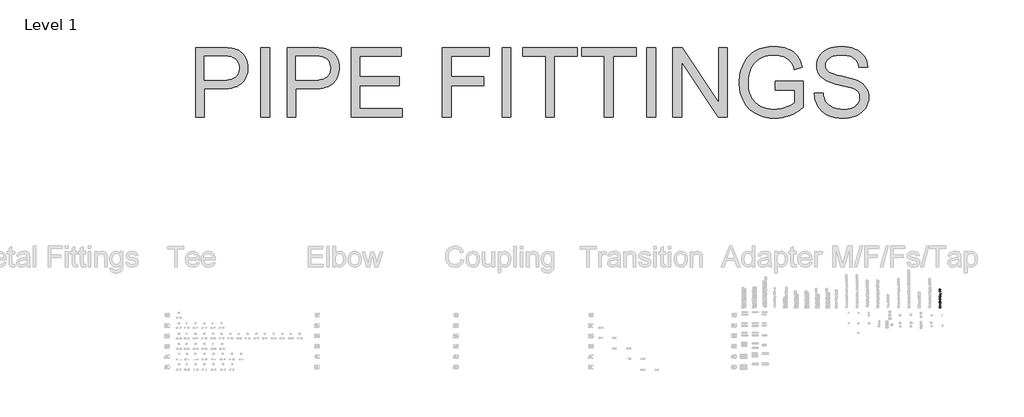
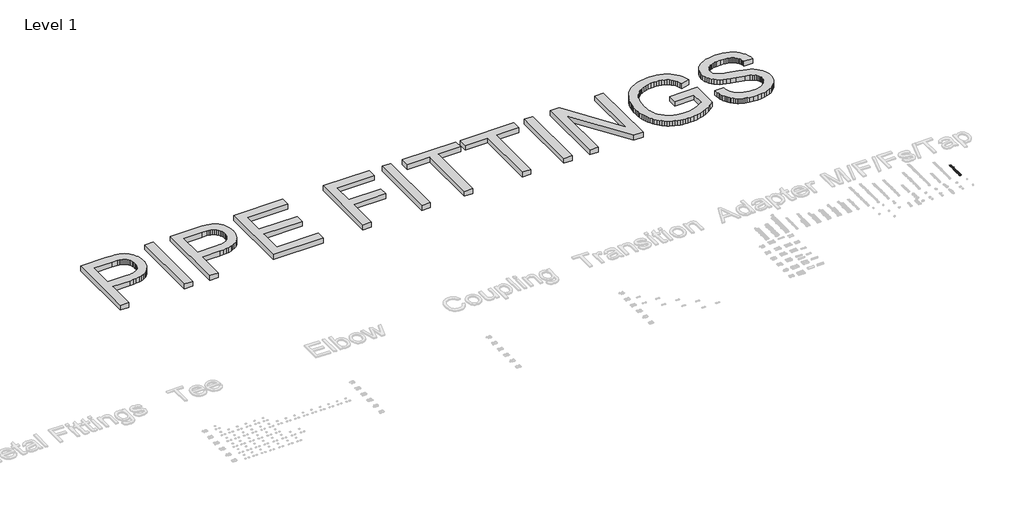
# One storey, part 58 of 58: 2 proxies.
"""IFC4 building model written with IfcOpenShell, lengths in millimetres."""

from ifc_helpers import new_model, si_unit, frame, origin, place, context, project, spatial, polyline, outline, extrude, element, save

model = new_model("IFC4")

# Units and contexts
model_context = context("Model", 3, world=origin())
ifc_project = project(units=[si_unit("LENGTHUNIT", "METRE", prefix="MILLI")], contexts=[model_context])

# Site, building, storey
site = spatial("IfcSite", under=ifc_project)
building = spatial("IfcBuilding", under=site)
storey = spatial("IfcBuildingStorey", under=building, Name="Level 1", Elevation=27.3876384)

# Proxies
placement = place(None, origin())
element("IfcBuildingElementProxy", 1, Name="2000mm Arial", ObjectType="2000mm Arial", at=placement, inside=storey, context=model_context, shape_type="SweptSolid", body=[
    extrude(outline(polyline([(13601.5317073, 35917.4021337), (13601.5317073, 37926.5283367), (14346.1248656, 37926.5283367), (14519.5199126, 37921.7458708), (14588.7430414, 37915.7677884), (14646.3165736, 37907.398473), (14716.1988243, 37892.3306396), (14780.1643062, 37871.6526058), (14838.2130194, 37845.3643716), (14890.3449638, 37813.4659369), (14937.1119624, 37775.2981799), (14979.0658383, 37730.2019786), (15016.2065914, 37678.1773332), (15048.5342217, 37619.2242434), (15074.715157, 37555.2894184), (15093.4158251, 37488.3195668), (15104.636226, 37418.3146888), (15108.3763596, 37345.2747844), (15105.851003, 37282.3746274), (15098.2749331, 37221.9423455), (15085.6481501, 37163.9779386), (15067.9706538, 37108.4814068), (15045.2424443, 37055.45275), (15017.4635215, 37004.8919683), (14984.6338856, 36956.7990617), (14946.7535364, 36911.17403), (14902.2819681, 36869.5573793), (14849.6786749, 36833.4896154), (14788.9436568, 36802.9707382), (14720.0769137, 36778.0007478), (14643.0784457, 36758.5796441), (14557.9482527, 36744.7074272), (14464.6863348, 36736.3840971), (14363.292692, 36733.6096537), (13852.6724827, 36733.6096537), (13852.6724827, 35917.4021337), (13601.5317073, 35917.4021337)]), holes=[polyline([(13852.6724827, 36984.7504291), (14378.0079718, 36984.7504291), (14498.7958936, 36990.5139137), (14552.108126, 36997.7182694), (14600.6992062, 37007.8043674), (14644.5691342, 37020.7722078), (14683.7179098, 37036.6217904), (14718.1455332, 37055.3531153), (14747.8520043, 37076.9661825), (14773.4887809, 37101.1927448), (14795.7073205, 37127.7645547), (14814.5076233, 37156.6816124), (14829.8896892, 37187.9439178), (14841.8535183, 37221.5514709), (14850.3991105, 37257.5042717), (14855.5264658, 37295.8023202), (14857.2355842, 37336.4456165), (14853.2042107, 37395.061481), (14841.1100901, 37449.2627617), (14820.9532224, 37499.0494583), (14792.7336077, 37544.4215711), (14757.9534308, 37583.9075719), (14718.1148764, 37616.0359328), (14673.2179445, 37640.8066538), (14623.2626353, 37658.2197349), (14581.9985382, 37665.730659), (14526.3870432, 37671.0956048), (14372.1218599, 37675.3875614), (13852.6724827, 37675.3875614), (13852.6724827, 36984.7504291)])]), frame((0.0, 0.0, 27.3876384), z_axis=(0.0, 0.0, 1.0), x_axis=(1.0, 0.0, 0.0)), (0.0, 0.0, 1.0), 150.0),
    extrude(outline(polyline([(15485.0875227, 35917.4021337), (15485.0875227, 37926.5283367), (15736.228298, 37926.5283367), (15736.228298, 35917.4021337), (15485.0875227, 35917.4021337)])), frame((0.0, 0.0, 27.3876384), z_axis=(0.0, 0.0, 1.0), x_axis=(1.0, 0.0, 0.0)), (0.0, 0.0, 1.0), 150.0),
    extrude(outline(polyline([(16238.5098488, 35917.4021337), (16238.5098488, 37926.5283367), (16983.103007, 37926.5283367), (17156.4980541, 37921.7458708), (17225.7211828, 37915.7677884), (17283.2947151, 37907.398473), (17353.1769657, 37892.3306396), (17417.1424477, 37871.6526058), (17475.1911608, 37845.3643716), (17527.3231052, 37813.4659369), (17574.0901038, 37775.2981799), (17616.0439797, 37730.2019786), (17653.1847328, 37678.1773332), (17685.5123631, 37619.2242434), (17711.6932985, 37555.2894184), (17730.3939665, 37488.3195668), (17741.6143674, 37418.3146888), (17745.354501, 37345.2747844), (17742.8291444, 37282.3746274), (17735.2530746, 37221.9423455), (17722.6262915, 37163.9779386), (17704.9487952, 37108.4814068), (17682.2205857, 37055.45275), (17654.441663, 37004.8919683), (17621.612027, 36956.7990617), (17583.7316778, 36911.17403), (17539.2601095, 36869.5573793), (17486.6568163, 36833.4896154), (17425.9217982, 36802.9707382), (17357.0550551, 36778.0007478), (17280.0565871, 36758.5796441), (17194.9263942, 36744.7074272), (17101.6644763, 36736.3840971), (17000.2708335, 36733.6096537), (16489.6506241, 36733.6096537), (16489.6506241, 35917.4021337), (16238.5098488, 35917.4021337)]), holes=[polyline([(16489.6506241, 36984.7504291), (17014.9861133, 36984.7504291), (17135.774035, 36990.5139137), (17189.0862675, 36997.7182694), (17237.6773477, 37007.8043674), (17281.5472756, 37020.7722078), (17320.6960513, 37036.6217904), (17355.1236746, 37055.3531153), (17384.8301457, 37076.9661825), (17410.4669223, 37101.1927448), (17432.685462, 37127.7645547), (17451.4857647, 37156.6816124), (17466.8678307, 37187.9439178), (17478.8316597, 37221.5514709), (17487.3772519, 37257.5042717), (17492.5046072, 37295.8023202), (17494.2137256, 37336.4456165), (17490.1823521, 37395.061481), (17478.0882315, 37449.2627617), (17457.9313639, 37499.0494583), (17429.7117492, 37544.4215711), (17394.9315722, 37583.9075719), (17355.0930178, 37616.0359328), (17310.196086, 37640.8066538), (17260.2407767, 37658.2197349), (17218.9766796, 37665.730659), (17163.3651846, 37671.0956048), (17009.1000013, 37675.3875614), (16489.6506241, 37675.3875614), (16489.6506241, 36984.7504291)])]), frame((0.0, 0.0, 27.3876384), z_axis=(0.0, 0.0, 1.0), x_axis=(1.0, 0.0, 0.0)), (0.0, 0.0, 1.0), 150.0),
    extrude(outline(polyline([(18090.6730672, 35917.4021337), (18090.6730672, 37926.5283367), (19534.7325256, 37926.5283367), (19534.7325256, 37675.3875614), (18341.8138425, 37675.3875614), (18341.8138425, 37078.9282199), (19471.9473317, 37078.9282199), (19471.9473317, 36827.7874445), (18341.8138425, 36827.7874445), (18341.8138425, 36168.5429091), (19566.1251225, 36168.5429091), (19566.1251225, 35917.4021337), (18090.6730672, 35917.4021337)])), frame((0.0, 0.0, 27.3876384), z_axis=(0.0, 0.0, 1.0), x_axis=(1.0, 0.0, 0.0)), (0.0, 0.0, 1.0), 150.0),
    extrude(outline(polyline([(20727.6512086, 35917.4021337), (20727.6512086, 37926.5283367), (22077.5328762, 37926.5283367), (22077.5328762, 37675.3875614), (20978.791984, 37675.3875614), (20978.791984, 37078.9282199), (21920.5698916, 37078.9282199), (21920.5698916, 36827.7874445), (20978.791984, 36827.7874445), (20978.791984, 35917.4021337), (20727.6512086, 35917.4021337)])), frame((0.0, 0.0, 27.3876384), z_axis=(0.0, 0.0, 1.0), x_axis=(1.0, 0.0, 0.0)), (0.0, 0.0, 1.0), 150.0),
    extrude(outline(polyline([(22454.2440393, 35917.4021337), (22454.2440393, 37926.5283367), (22705.3848147, 37926.5283367), (22705.3848147, 35917.4021337), (22454.2440393, 35917.4021337)])), frame((0.0, 0.0, 27.3876384), z_axis=(0.0, 0.0, 1.0), x_axis=(1.0, 0.0, 0.0)), (0.0, 0.0, 1.0), 150.0),
    extrude(outline(polyline([(23709.9479162, 35917.4021337), (23709.9479162, 37675.3875614), (23050.7033808, 37675.3875614), (23050.7033808, 37926.5283367), (24620.3332269, 37926.5283367), (24620.3332269, 37675.3875614), (23961.0886915, 37675.3875614), (23961.0886915, 35917.4021337), (23709.9479162, 35917.4021337)])), frame((0.0, 0.0, 27.3876384), z_axis=(0.0, 0.0, 1.0), x_axis=(1.0, 0.0, 0.0)), (0.0, 0.0, 1.0), 150.0),
    extrude(outline(polyline([(25405.1481499, 35917.4021337), (25405.1481499, 37675.3875614), (24745.9036146, 37675.3875614), (24745.9036146, 37926.5283367), (26315.5334607, 37926.5283367), (26315.5334607, 37675.3875614), (25656.2889253, 37675.3875614), (25656.2889253, 35917.4021337), (25405.1481499, 35917.4021337)])), frame((0.0, 0.0, 27.3876384), z_axis=(0.0, 0.0, 1.0), x_axis=(1.0, 0.0, 0.0)), (0.0, 0.0, 1.0), 150.0),
    extrude(outline(polyline([(26629.4594299, 35917.4021337), (26629.4594299, 37926.5283367), (26880.6002052, 37926.5283367), (26880.6002052, 35917.4021337), (26629.4594299, 35917.4021337)])), frame((0.0, 0.0, 27.3876384), z_axis=(0.0, 0.0, 1.0), x_axis=(1.0, 0.0, 0.0)), (0.0, 0.0, 1.0), 150.0),
    extrude(outline(polyline([(27382.881756, 35917.4021337), (27382.881756, 37926.5283367), (27651.6808671, 37926.5283367), (28701.3708267, 36334.8255709), (28701.3708267, 37926.5283367), (28952.5116021, 37926.5283367), (28952.5116021, 35917.4021337), (28683.7124909, 35917.4021337), (27634.0225314, 37509.5954089), (27634.0225314, 35917.4021337), (27382.881756, 35917.4021337)])), frame((0.0, 0.0, 27.3876384), z_axis=(0.0, 0.0, 1.0), x_axis=(1.0, 0.0, 0.0)), (0.0, 0.0, 1.0), 150.0),
    extrude(outline(polyline([(30333.7858666, 36702.2170568), (30333.7858666, 36953.3578322), (31149.9933866, 36953.3578322), (31149.9933866, 36202.3880527), (31051.6002813, 36128.5357421), (30951.6436775, 36064.4323045), (30850.1235753, 36010.0777397), (30747.0399746, 35965.4720478), (30642.5155027, 35930.7071992), (30536.672787, 35905.8751646), (30429.5118275, 35890.9759438), (30321.0326241, 35886.0095368), (30248.0578655, 35887.9830704), (30176.7768968, 35893.9036713), (30107.1897181, 35903.7713394), (30039.2963295, 35917.5860747), (29973.0967309, 35935.3478773), (29908.5909223, 35957.0567471), (29845.7789037, 35982.7126842), (29784.6606752, 36012.3156885), (29726.2364158, 36045.6588264), (29671.5063048, 36082.5351643), (29620.4703422, 36122.9447022), (29573.1285279, 36166.8874401), (29529.4808621, 36214.363378), (29489.5273445, 36265.3725159), (29453.2679754, 36319.9148538), (29420.7027546, 36377.9903917), (29391.9044922, 36438.6985851), (29366.9459981, 36501.1388896), (29345.8272723, 36565.3113051), (29328.5483148, 36631.2158317), (29315.1091257, 36698.8524694), (29305.5097049, 36768.2212181), (29299.7500524, 36839.3220779), (29297.8301682, 36912.1550487), (29299.7423882, 36984.746597), (29305.479048, 37056.1042077), (29315.0401478, 37126.227881), (29328.4256875, 37195.1176167), (29345.6356671, 37262.7734148), (29366.6700866, 37329.1952755), (29391.528946, 37394.3831986), (29420.2122453, 37458.3371842), (29452.482394, 37519.6393538), (29488.1018018, 37576.8718287), (29527.0704686, 37630.0346091), (29569.3883943, 37679.127695), (29615.0555791, 37724.1510862), (29664.0720228, 37765.1047829), (29716.4377256, 37801.9887851), (29772.1526873, 37834.8030926), (29830.6305962, 37863.6588366), (29891.2851401, 37888.6671481), (29954.1163192, 37909.828027), (30019.1241334, 37927.1414734), (30086.3085828, 37940.6074873), (30155.6696673, 37950.2260686), (30227.207387, 37955.9972174), (30300.9217417, 37957.9209337), (30406.9637268, 37953.4603645), (30507.7940504, 37940.0786569), (30603.4127123, 37917.7758109), (30693.8197126, 37886.5518266), (30776.8844014, 37847.3723941), (30850.4761289, 37801.2032037), (30914.5948949, 37748.0442554), (30969.2406996, 37687.8955492), (31016.1609824, 37619.392856), (31057.1031828, 37541.1719468), (31092.0673008, 37453.2328215), (31121.0533363, 37355.5754802), (30889.532934, 37290.3377397), (30865.0841098, 37360.5878724), (30837.8455137, 37422.7139443), (30807.8171458, 37476.7159556), (30774.9990062, 37522.593906), (30737.1071607, 37562.3251615), (30691.8576753, 37597.8870877), (30639.25055, 37629.2796846), (30579.2857848, 37656.5029523), (30513.9100885, 37678.4992299), (30445.0701702, 37694.2108568), (30372.7660297, 37703.6378329), (30296.9976671, 37706.7801583), (30207.1884751, 37703.3925782), (30123.6639337, 37693.2298381), (30046.4240432, 37676.2919379), (29975.4688033, 37652.5788777), (29910.93617, 37623.3629159), (29852.9640989, 37589.9163112), (29801.5525901, 37552.2390635), (29756.7016435, 37510.3311729), (29717.445569, 37465.2196432), (29682.8186762, 37417.9314784), (29652.8209652, 37368.4666785), (29627.4524359, 37316.8252434), (29593.116783, 37223.9350396), (29568.5913167, 37127.2433886), (29553.8760369, 37026.7502902), (29548.9709436, 36922.4557446), (29554.8723839, 36797.0539695), (29562.2491844, 36738.3423023), (29572.576705, 36682.2901154), (29585.8549457, 36628.8974087), (29602.0839067, 36578.1641823), (29621.2635878, 36530.0904362), (29643.393989, 36484.6761703), (29668.3409868, 36442.0095231), (29695.9704575, 36402.1786329), (29726.2824011, 36365.1834997), (29759.2768175, 36331.0241237), (29794.9537068, 36299.7005046), (29833.313069, 36271.2126426), (29874.3549041, 36245.5605377), (29918.0792121, 36222.7441897), (30009.6051868, 36185.2968683), (30103.9209333, 36158.5487816), (30201.0264516, 36142.4999295), (30300.9217417, 36137.1503122), (30388.4316713, 36141.1816857), (30474.8686118, 36153.2758063), (30560.2325631, 36173.432674), (30644.5235252, 36201.6522887), (30723.2349438, 36234.4397715), (30791.8602643, 36268.3002435), (30850.3994868, 36303.2337046), (30898.8526112, 36339.2401549), (30898.8526112, 36702.2170568), (30333.7858666, 36702.2170568)])), frame((0.0, 0.0, 27.3876384), z_axis=(0.0, 0.0, 1.0), x_axis=(1.0, 0.0, 0.0)), (0.0, 0.0, 1.0), 150.0),
    extrude(outline(polyline([(31463.9193558, 36608.039266), (31715.0601312, 36608.039266), (31726.5564435, 36534.9380479), (31743.8775542, 36468.6733035), (31767.023463, 36409.2450329), (31795.9941701, 36356.653236), (31832.2612035, 36309.8402521), (31877.2960911, 36267.7484205), (31931.0988329, 36230.3777411), (31993.6694289, 36197.7282141), (32062.7086166, 36171.225382), (32135.9171337, 36152.2947877), (32213.29498, 36140.9364311), (32294.8421556, 36137.1503122), (32366.9776835, 36140.0167261), (32434.7599411, 36148.6159677), (32498.1889284, 36162.9480371), (32557.2646455, 36183.0129343), (32610.5308927, 36208.0902236), (32656.5314705, 36237.4594695), (32695.2663789, 36271.1206721), (32726.7356179, 36309.0738313), (32751.0924717, 36349.6788065), (32768.4902244, 36391.2954572), (32778.928876, 36433.9237834), (32782.4084265, 36477.5637851), (32779.8025957, 36521.0198457), (32771.9851033, 36561.624821), (32758.9559493, 36599.3787107), (32740.7151338, 36634.281515), (32714.4115711, 36666.5171748), (32677.1941759, 36696.2696312), (32629.0629482, 36723.5388841), (32570.017888, 36748.3249335), (32437.3964287, 36787.7496207), (32204.3431848, 36844.2195069), (32073.5151502, 36876.3325394), (31964.3001829, 36907.6791511), (31876.6982828, 36938.2593419), (31810.7094499, 36968.073112), (31743.6476279, 37008.0802789), (31685.6908852, 37052.5633435), (31636.839222, 37101.5223057), (31597.0926381, 37154.9571655), (31566.2978494, 37212.3160999), (31544.3015718, 37273.047286), (31531.1038052, 37337.1507236), (31526.7045497, 37404.6264129), (31532.1461375, 37479.4137568), (31548.470901, 37551.7178973), (31575.6788403, 37621.5388343), (31613.7699552, 37688.8765679), (31636.7894046, 37720.9282867), (31662.3150501, 37750.9873114), (31720.8849295, 37805.1272783), (31789.4795931, 37851.2964687), (31868.0990412, 37889.4948826), (31954.0914576, 37919.4312799), (32044.8050262, 37940.8144209), (32140.2397471, 37953.6443055), (32240.3956203, 37957.9209337), (32349.6565729, 37953.4450361), (32452.2956495, 37940.0173432), (32548.3128503, 37917.6378552), (32637.7081751, 37886.3065719), (32718.826155, 37846.299405), (32790.0113211, 37797.8922658), (32821.8790989, 37770.5387066), (32851.2636733, 37741.0851543), (32878.1650442, 37709.531609), (32902.5832116, 37675.8780707), (32943.5713973, 37604.1717385), (32973.8296914, 37527.8668813), (32993.3580939, 37446.9634992), (33002.156605, 37361.4615921), (32751.0158296, 37361.4615921), (32744.1793559, 37402.8329882), (32734.2158852, 37441.5985534), (32721.1254175, 37477.7582879), (32704.9079529, 37511.3121915), (32685.5634913, 37542.2602644), (32663.0920328, 37570.6025064), (32637.4935773, 37596.3389177), (32608.7681248, 37619.4694981), (32576.6627565, 37639.9329341), (32540.9245535, 37657.6679119), (32501.5535158, 37672.6744316), (32458.5496434, 37684.9524932), (32411.9129364, 37694.5020967), (32361.6433946, 37701.323242), (32250.2058068, 37706.7801583), (32135.2120265, 37701.3845557), (32083.9921229, 37694.6400524), (32036.956877, 37685.1977479), (31994.1062887, 37673.0576421), (31955.4403582, 37658.2197349), (31920.9590854, 37640.6840265), (31890.6624702, 37620.4505168), (31864.2209518, 37598.3086192), (31841.3049692, 37575.0477472), (31821.9145224, 37550.6679008), (31806.0496113, 37525.16908), (31793.7102361, 37498.5512848), (31784.8963966, 37470.8145152), (31779.6080929, 37441.9587712), (31777.845325, 37411.9840528), (31782.8423888, 37361.3696216), (31797.8335801, 37315.4763427), (31822.818899, 37274.3042161), (31857.7983453, 37237.8532418), (31881.3734499, 37220.6394301), (31912.8580173, 37203.3336479), (31999.5555408, 37168.446172), (32117.8909159, 37133.1908141), (32267.8641426, 37097.5675743), (32419.9833476, 37062.8333826), (32544.7566577, 37030.2451692), (32642.1840727, 36999.8029341), (32712.2655928, 36971.5066773), (32789.2602287, 36928.617768), (32855.4330026, 36880.3945698), (32910.7839144, 36826.8370827), (32955.3129643, 36767.9453066), (32989.5413182, 36704.0258099), (33013.9901425, 36635.385161), (33028.6594371, 36562.0233598), (33033.5492019, 36483.9404063), (33027.9236731, 36405.3822719), (33011.0470865, 36329.1234), (32982.9194423, 36255.1637906), (32943.5407404, 36183.5034436), (32893.6007596, 36116.9168025), (32833.7892785, 36058.1783106), (32764.1062973, 36007.2879679), (32684.5518158, 35964.2457745), (32597.440425, 35930.0174205), (32505.0867158, 35905.5685962), (32407.4906882, 35890.8993017), (32304.6523421, 35886.0095368), (32176.1848837, 35891.2825121), (32058.600601, 35907.1014379), (32003.8896506, 35918.9656322), (31951.899494, 35933.4663142), (31902.6301314, 35950.6034838), (31856.0815627, 35970.3771411), (31812.1081679, 35992.8026143), (31770.5643272, 36017.8952321), (31731.4500405, 36045.6549943), (31694.7653078, 36076.081901), (31660.5101291, 36109.1759521), (31628.6845044, 36144.9371478), (31599.2884337, 36183.3654878), (31572.3219171, 36224.4609724), (31548.0953548, 36267.5798079), (31526.9191475, 36312.0782009), (31508.793295, 36357.9561514), (31493.7177974, 36405.2136594), (31481.6926547, 36453.8507248), (31472.7178669, 36503.8673477), (31463.9193558, 36608.039266)])), frame((0.0, 0.0, 27.3876384), z_axis=(0.0, 0.0, 1.0), x_axis=(1.0, 0.0, 0.0)), (0.0, 0.0, 1.0), 150.0),
])
element("IfcBuildingElementProxy", 2, Name="50mm Arial", ObjectType="50mm Arial", at=placement, inside=storey, context=model_context, shape_type="SweptSolid", body=[
    extrude(outline(polyline([(35119.1417262, 30406.1759681), (35068.1287562, 30406.1759681), (35068.1287562, 30422.8260347), (35102.9218285, 30430.8727235), (35068.1287562, 30438.9194122), (35068.1287562, 30455.5694788), (35119.1417262, 30455.5694788), (35119.1417262, 30445.8527226), (35078.9841947, 30445.4478577), (35119.1417262, 30436.5661353), (35119.1417262, 30425.1919637), (35078.9841947, 30416.2975892), (35119.1417262, 30415.8927243), (35119.1417262, 30406.1759681)])), frame((0.0, 0.0, 27.3876384), z_axis=(0.0, 0.0, 1.0), x_axis=(1.0, 0.0, 0.0)), (0.0, 0.0, 1.0), 2.0),
    extrude(outline(polyline([(35093.2303763, 30473.3835318), (35091.610917, 30464.4765053), (35083.6654445, 30469.3665134), (35081.0844311, 30479.6715889), (35082.6469563, 30488.9202201), (35086.6070406, 30493.196605), (35095.4191769, 30494.4365035), (35106.9072168, 30494.4365035), (35114.1441758, 30494.9489106), (35119.1417262, 30496.8656926), (35119.1417262, 30487.1489364), (35116.0546318, 30486.2379905), (35118.6672752, 30480.696403), (35119.9514559, 30474.7879067), (35116.8327314, 30466.0516826), (35108.956845, 30462.8570459), (35103.3393453, 30464.2803989), (35099.5563895, 30468.2721132), (35097.2663727, 30475.6735485), (35094.8498357, 30484.7197473), (35089.6245488, 30483.5114788), (35088.3719982, 30478.9630754), (35089.4474205, 30475.4331601), (35093.2303763, 30473.3835318)]), holes=[polyline([(35102.1374028, 30484.7197473), (35103.4848436, 30479.24142), (35105.0220648, 30474.3324338), (35108.1218113, 30472.5738021), (35111.3164479, 30473.984503), (35112.6638887, 30477.5713525), (35111.0950375, 30482.2146461), (35108.1850714, 30484.3654906), (35103.8960345, 30484.7197473), (35102.1374028, 30484.7197473)])]), frame((0.0, 0.0, 27.3876384), z_axis=(0.0, 0.0, 1.0), x_axis=(1.0, 0.0, 0.0)), (0.0, 0.0, 1.0), 2.0),
    extrude(outline(polyline([(35119.1417262, 30537.3521767), (35119.1417262, 30527.6354205), (35099.9992104, 30527.6354205), (35092.1296501, 30527.0281233), (35089.3588563, 30525.0417551), (35088.3719982, 30521.7395763), (35089.7826992, 30517.292389), (35093.527699, 30514.5975074), (35102.1500549, 30513.8700159), (35119.1417262, 30513.8700159), (35119.1417262, 30504.1532597), (35081.8941608, 30504.1532597), (35081.8941608, 30513.8700159), (35087.2586199, 30513.8700159), (35082.6279783, 30519.0858138), (35081.0844311, 30525.4972281), (35082.2610695, 30531.1400318), (35085.2595998, 30535.0115518), (35089.3904864, 30536.8397696), (35096.0138221, 30537.3521767), (35119.1417262, 30537.3521767)])), frame((0.0, 0.0, 27.3876384), z_axis=(0.0, 0.0, 1.0), x_axis=(1.0, 0.0, 0.0)), (0.0, 0.0, 1.0), 2.0),
    extrude(outline(polyline([(35119.1417262, 30547.0689329), (35081.8941608, 30547.0689329), (35081.8941608, 30556.7856891), (35119.1417262, 30556.7856891), (35119.1417262, 30547.0689329)])), frame((0.0, 0.0, 27.3876384), z_axis=(0.0, 0.0, 1.0), x_axis=(1.0, 0.0, 0.0)), (0.0, 0.0, 1.0), 2.0),
    extrude(outline(polyline([(35077.0357827, 30547.0689329), (35068.1287562, 30547.0689329), (35068.1287562, 30556.7856891), (35077.0357827, 30556.7856891), (35077.0357827, 30547.0689329)])), frame((0.0, 0.0, 27.3876384), z_axis=(0.0, 0.0, 1.0), x_axis=(1.0, 0.0, 0.0)), (0.0, 0.0, 1.0), 2.0),
    extrude(outline(polyline([(35081.8941608, 30562.4537969), (35081.8941608, 30567.312175), (35079.1739751, 30567.312175), (35072.379837, 30568.299033), (35068.7297274, 30571.9301646), (35067.3190265, 30578.6230865), (35068.533621, 30586.7456873), (35075.1506308, 30585.5310928), (35074.6065936, 30581.0143194), (35075.5807997, 30577.9588551), (35079.3257994, 30577.0289312), (35081.8941608, 30577.0289312), (35081.8941608, 30584.3164983), (35089.1817279, 30584.3164983), (35089.1817279, 30577.0289312), (35119.1417262, 30577.0289312), (35119.1417262, 30567.312175), (35089.1817279, 30567.312175), (35089.1817279, 30562.4537969), (35081.8941608, 30562.4537969)])), frame((0.0, 0.0, 27.3876384), z_axis=(0.0, 0.0, 1.0), x_axis=(1.0, 0.0, 0.0)), (0.0, 0.0, 1.0), 2.0),
    extrude(outline(polyline([(35099.9865584, 30587.555417), (35090.5038647, 30589.952976), (35083.5009681, 30596.7407881), (35081.0844311, 30606.5461085), (35086.5627585, 30620.267231), (35100.4167273, 30625.6127121), (35114.4035423, 30620.2102969), (35119.9514559, 30606.6220206), (35117.6424611, 30596.9495465), (35110.867301, 30589.952976), (35099.9865584, 30587.555417)]), holes=[polyline([(35100.5179435, 30597.2721732), (35109.5325122, 30599.9607288), (35112.6638887, 30606.5967166), (35109.5325122, 30613.2200524), (35100.4420313, 30615.8959559), (35091.5033747, 30613.2200524), (35088.3719982, 30606.5967166), (35091.5033747, 30599.9607288), (35100.5179435, 30597.2721732)])]), frame((0.0, 0.0, 27.3876384), z_axis=(0.0, 0.0, 1.0), x_axis=(1.0, 0.0, 0.0)), (0.0, 0.0, 1.0), 2.0),
    extrude(outline(polyline([(35119.1417262, 30632.9002792), (35068.1287562, 30632.9002792), (35068.1287562, 30642.6170354), (35119.1417262, 30642.6170354), (35119.1417262, 30632.9002792)])), frame((0.0, 0.0, 27.3876384), z_axis=(0.0, 0.0, 1.0), x_axis=(1.0, 0.0, 0.0)), (0.0, 0.0, 1.0), 2.0),
    extrude(outline(polyline([(35119.1417262, 30685.5327086), (35119.1417262, 30675.8159524), (35113.777267, 30675.8159524), (35118.4268867, 30670.6855558), (35119.9514559, 30664.7327774), (35114.7894291, 30654.2632256), (35100.3787712, 30649.9046026), (35086.0060693, 30654.2568996), (35081.0844311, 30665.2641625), (35086.1831977, 30675.8159524), (35068.1287562, 30675.8159524), (35068.1287562, 30685.5327086), (35119.1417262, 30685.5327086)]), holes=[polyline([(35099.80943, 30659.6213588), (35108.6911525, 30661.2408181), (35112.6638887, 30667.7819157), (35109.6843365, 30673.4753276), (35100.783636, 30675.8159524), (35091.2756383, 30673.5449137), (35088.3719982, 30667.7186556), (35091.2440082, 30661.9493316), (35099.80943, 30659.6213588)])]), frame((0.0, 0.0, 27.3876384), z_axis=(0.0, 0.0, 1.0), x_axis=(1.0, 0.0, 0.0)), (0.0, 0.0, 1.0), 2.0),
    extrude(outline(polyline([(35099.7082138, 30747.8818942), (35102.9471325, 30757.5986504), (35115.1500119, 30749.9441744), (35119.1417262, 30736.3558982), (35117.4368656, 30727.0787999), (35112.322284, 30719.6172674), (35104.2502912, 30714.7019552), (35093.6731973, 30713.0635178), (35082.5583922, 30714.7161887), (35074.2396849, 30719.6742015), (35069.0491911, 30727.327096), (35067.3190265, 30737.0644117), (35068.7455425, 30745.5918774), (35073.0250904, 30752.3480594), (35082.7038905, 30757.5986504), (35084.3233498, 30747.8818942), (35078.3958755, 30743.8522238), (35076.226053, 30736.3938543), (35080.1671592, 30726.5569039), (35092.9267277, 30722.780274), (35106.2619634, 30726.4430356), (35110.2346997, 30735.9763374), (35107.6979684, 30743.4094029), (35099.7082138, 30747.8818942)])), frame((0.0, 0.0, 27.3876384), z_axis=(0.0, 0.0, 1.0), x_axis=(1.0, 0.0, 0.0)), (0.0, 0.0, 1.0), 2.0),
    extrude(outline(polyline([(35093.2303763, 30773.793244), (35091.610917, 30764.8862175), (35083.6654445, 30769.7762257), (35081.0844311, 30780.0813011), (35082.6469563, 30789.3299323), (35086.6070406, 30793.6063172), (35095.4191769, 30794.8462157), (35106.9072168, 30794.8462157), (35114.1441758, 30795.3586228), (35119.1417262, 30797.2754048), (35119.1417262, 30787.5586486), (35116.0546318, 30786.6477027), (35118.6672752, 30781.1061152), (35119.9514559, 30775.1976189), (35116.8327314, 30766.4613948), (35108.956845, 30763.2667581), (35103.3393453, 30764.6901111), (35099.5563895, 30768.6818254), (35097.2663727, 30776.0832608), (35094.8498357, 30785.1294596), (35089.6245488, 30783.921191), (35088.3719982, 30779.3727876), (35089.4474205, 30775.8428723), (35093.2303763, 30773.793244)]), holes=[polyline([(35102.1374028, 30785.1294596), (35103.4848436, 30779.6511322), (35105.0220648, 30774.742146), (35108.1218113, 30772.9835143), (35111.3164479, 30774.3942152), (35112.6638887, 30777.9810647), (35111.0950375, 30782.6243584), (35108.1850714, 30784.7752028), (35103.8960345, 30785.1294596), (35102.1374028, 30785.1294596)])]), frame((0.0, 0.0, 27.3876384), z_axis=(0.0, 0.0, 1.0), x_axis=(1.0, 0.0, 0.0)), (0.0, 0.0, 1.0), 2.0),
    extrude(outline(polyline([(35081.8941608, 30804.5629719), (35081.8941608, 30814.2797281), (35087.2586199, 30814.2797281), (35082.7924546, 30818.8977177), (35081.0844311, 30825.3629032), (35086.1642197, 30835.870411), (35100.302859, 30840.191078), (35114.7894291, 30835.7312387), (35119.9514559, 30824.9200822), (35118.7495134, 30819.4417549), (35114.6249528, 30814.2797281), (35132.9071308, 30814.2797281), (35132.9071308, 30804.5629719), (35081.8941608, 30804.5629719)]), holes=[polyline([(35099.8726901, 30814.2797281), (35109.5388382, 30816.7152432), (35112.6638887, 30822.6553695), (35109.7982048, 30828.2412391), (35100.3914232, 30830.4743218), (35091.3325724, 30828.177979), (35088.3719982, 30822.4782412), (35091.2756383, 30816.614027), (35099.8726901, 30814.2797281)])]), frame((0.0, 0.0, 27.3876384), z_axis=(0.0, 0.0, 1.0), x_axis=(1.0, 0.0, 0.0)), (0.0, 0.0, 1.0), 2.0),
    extrude(outline(polyline([(35119.1417262, 30866.9121575), (35068.1287562, 30866.9121575), (35068.1287562, 30901.7305338), (35077.0357827, 30901.7305338), (35077.0357827, 30876.6289137), (35088.3719982, 30876.6289137), (35088.3719982, 30898.4916151), (35097.2790248, 30898.4916151), (35097.2790248, 30876.6289137), (35119.1417262, 30876.6289137), (35119.1417262, 30866.9121575)])), frame((0.0, 0.0, 27.3876384), z_axis=(0.0, 0.0, 1.0), x_axis=(1.0, 0.0, 0.0)), (0.0, 0.0, 1.0), 2.0),
    extrude(outline(polyline([(35119.1417262, 30921.1640462), (35077.0357827, 30921.1640462), (35077.0357827, 30906.5889119), (35068.1287562, 30906.5889119), (35068.1287562, 30945.4559367), (35077.0357827, 30945.4559367), (35077.0357827, 30930.8808024), (35119.1417262, 30930.8808024), (35119.1417262, 30921.1640462)])), frame((0.0, 0.0, 27.3876384), z_axis=(0.0, 0.0, 1.0), x_axis=(1.0, 0.0, 0.0)), (0.0, 0.0, 1.0), 2.0),
])

save(model, "model.ifc")
